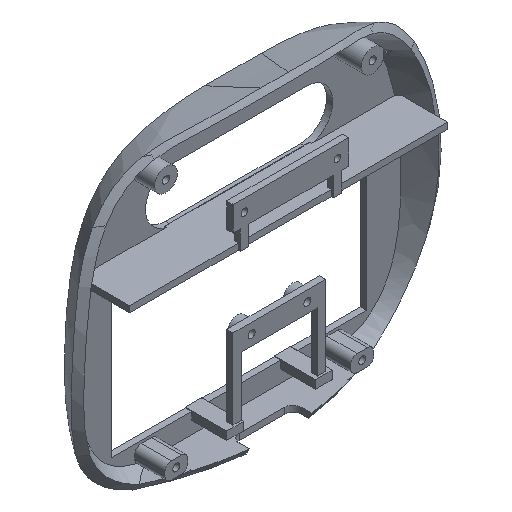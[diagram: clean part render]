
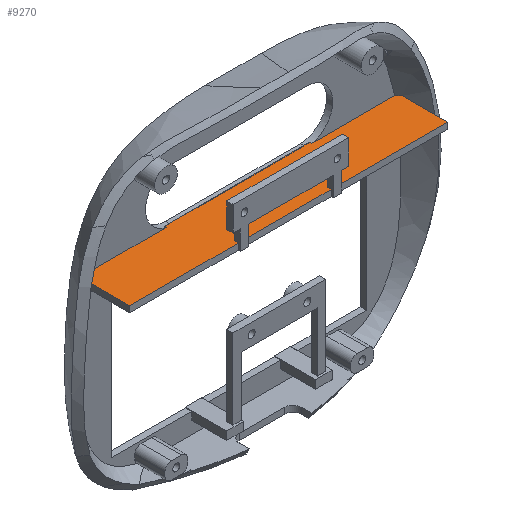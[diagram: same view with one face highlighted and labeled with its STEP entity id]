
A CAD part, isometric view. The second image highlights one B-rep face of the part: STEP entity #9270.
In plain terms, the highlighted planar face has unit normal (0, 0, 1).
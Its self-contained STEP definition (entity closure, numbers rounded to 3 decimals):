
#5504 = VERTEX_POINT('',#5505);
#5505 = CARTESIAN_POINT('',(77.,9.062,96.));
#5513 = EDGE_CURVE('',#5514,#5504,#5516,.T.);
#5514 = VERTEX_POINT('',#5515);
#5515 = CARTESIAN_POINT('',(75.351,11.025,96.));
#5516 = B_SPLINE_CURVE_WITH_KNOTS('',4,(#5517,#5518,#5519,#5520,#5521),
  .UNSPECIFIED.,.F.,.F.,(5,5),(0.,1.),.PIECEWISE_BEZIER_KNOTS.);
#5517 = CARTESIAN_POINT('',(74.461,12.025,96.));
#5518 = CARTESIAN_POINT('',(75.117,11.302,
    96.));
#5519 = CARTESIAN_POINT('',(75.759,10.567,
    96.));
#5520 = CARTESIAN_POINT('',(76.387,9.82,
    96.));
#5521 = CARTESIAN_POINT('',(77.,9.062,96.));
#6707 = VERTEX_POINT('',#6708);
#6708 = CARTESIAN_POINT('',(-75.351,11.025,96.));
#6888 = EDGE_CURVE('',#6889,#6707,#6891,.T.);
#6889 = VERTEX_POINT('',#6890);
#6890 = CARTESIAN_POINT('',(-77.,9.062,96.));
#6891 = B_SPLINE_CURVE_WITH_KNOTS('',4,(#6892,#6893,#6894,#6895,#6896),
  .UNSPECIFIED.,.F.,.F.,(5,5),(0.,1.),.PIECEWISE_BEZIER_KNOTS.);
#6892 = CARTESIAN_POINT('',(-77.,9.062,96.));
#6893 = CARTESIAN_POINT('',(-76.387,9.82,
    96.));
#6894 = CARTESIAN_POINT('',(-75.759,10.567,
    96.));
#6895 = CARTESIAN_POINT('',(-75.117,11.302,
    96.));
#6896 = CARTESIAN_POINT('',(-74.461,12.025,96.));
#9089 = EDGE_CURVE('',#6707,#9090,#9092,.T.);
#9090 = VERTEX_POINT('',#9091);
#9091 = CARTESIAN_POINT('',(-35.255,11.025,96.));
#9092 = LINE('',#9093,#9094);
#9093 = CARTESIAN_POINT('',(-163.5,11.025,96.));
#9094 = VECTOR('',#9095,1.);
#9095 = DIRECTION('',(1.,0.,0.));
#9115 = VERTEX_POINT('',#9116);
#9116 = CARTESIAN_POINT('',(35.255,11.025,96.));
#9123 = EDGE_CURVE('',#9115,#5514,#9124,.T.);
#9124 = LINE('',#9125,#9126);
#9125 = CARTESIAN_POINT('',(-163.5,11.025,96.));
#9126 = VECTOR('',#9127,1.);
#9127 = DIRECTION('',(1.,0.,0.));
#9168 = EDGE_CURVE('',#9090,#9169,#9171,.T.);
#9169 = VERTEX_POINT('',#9170);
#9170 = CARTESIAN_POINT('',(-35.255,12.025,96.));
#9171 = LINE('',#9172,#9173);
#9172 = CARTESIAN_POINT('',(-35.255,-2.975,96.));
#9173 = VECTOR('',#9174,1.);
#9174 = DIRECTION('',(0.,1.,0.));
#9221 = EDGE_CURVE('',#9115,#9222,#9224,.T.);
#9222 = VERTEX_POINT('',#9223);
#9223 = CARTESIAN_POINT('',(35.255,12.025,96.));
#9224 = LINE('',#9225,#9226);
#9225 = CARTESIAN_POINT('',(35.255,-2.975,96.));
#9226 = VECTOR('',#9227,1.);
#9227 = DIRECTION('',(0.,1.,0.));
#9270 = ADVANCED_FACE('',(#9271),#9371,.T.);
#9271 = FACE_BOUND('',#9272,.T.);
#9272 = EDGE_LOOP('',(#9273,#9281,#9289,#9297,#9305,#9313,#9321,#9329,
    #9337,#9345,#9353,#9359,#9360,#9361,#9362,#9368,#9369,#9370));
#9273 = ORIENTED_EDGE('',*,*,#9274,.F.);
#9274 = EDGE_CURVE('',#9275,#6889,#9277,.T.);
#9275 = VERTEX_POINT('',#9276);
#9276 = CARTESIAN_POINT('',(-77.,-12.975,96.));
#9277 = LINE('',#9278,#9279);
#9278 = CARTESIAN_POINT('',(-77.,-12.975,96.));
#9279 = VECTOR('',#9280,1.);
#9280 = DIRECTION('',(0.,1.,0.));
#9281 = ORIENTED_EDGE('',*,*,#9282,.T.);
#9282 = EDGE_CURVE('',#9275,#9283,#9285,.T.);
#9283 = VERTEX_POINT('',#9284);
#9284 = CARTESIAN_POINT('',(-24.5,-12.975,96.));
#9285 = LINE('',#9286,#9287);
#9286 = CARTESIAN_POINT('',(-77.,-12.975,96.));
#9287 = VECTOR('',#9288,1.);
#9288 = DIRECTION('',(1.,0.,0.));
#9289 = ORIENTED_EDGE('',*,*,#9290,.T.);
#9290 = EDGE_CURVE('',#9283,#9291,#9293,.T.);
#9291 = VERTEX_POINT('',#9292);
#9292 = CARTESIAN_POINT('',(-24.5,-11.025,96.));
#9293 = LINE('',#9294,#9295);
#9294 = CARTESIAN_POINT('',(-24.5,-13.5,96.));
#9295 = VECTOR('',#9296,1.);
#9296 = DIRECTION('',(0.,1.,0.));
#9297 = ORIENTED_EDGE('',*,*,#9298,.F.);
#9298 = EDGE_CURVE('',#9299,#9291,#9301,.T.);
#9299 = VERTEX_POINT('',#9300);
#9300 = CARTESIAN_POINT('',(-20.5,-11.025,96.));
#9301 = LINE('',#9302,#9303);
#9302 = CARTESIAN_POINT('',(-50.75,-11.025,96.));
#9303 = VECTOR('',#9304,1.);
#9304 = DIRECTION('',(-1.,0.,0.));
#9305 = ORIENTED_EDGE('',*,*,#9306,.F.);
#9306 = EDGE_CURVE('',#9307,#9299,#9309,.T.);
#9307 = VERTEX_POINT('',#9308);
#9308 = CARTESIAN_POINT('',(-20.5,-12.975,96.));
#9309 = LINE('',#9310,#9311);
#9310 = CARTESIAN_POINT('',(-20.5,-13.5,96.));
#9311 = VECTOR('',#9312,1.);
#9312 = DIRECTION('',(0.,1.,0.));
#9313 = ORIENTED_EDGE('',*,*,#9314,.T.);
#9314 = EDGE_CURVE('',#9307,#9315,#9317,.T.);
#9315 = VERTEX_POINT('',#9316);
#9316 = CARTESIAN_POINT('',(20.5,-12.975,96.));
#9317 = LINE('',#9318,#9319);
#9318 = CARTESIAN_POINT('',(-77.,-12.975,96.));
#9319 = VECTOR('',#9320,1.);
#9320 = DIRECTION('',(1.,0.,0.));
#9321 = ORIENTED_EDGE('',*,*,#9322,.T.);
#9322 = EDGE_CURVE('',#9315,#9323,#9325,.T.);
#9323 = VERTEX_POINT('',#9324);
#9324 = CARTESIAN_POINT('',(20.5,-11.025,96.));
#9325 = LINE('',#9326,#9327);
#9326 = CARTESIAN_POINT('',(20.5,-13.5,96.));
#9327 = VECTOR('',#9328,1.);
#9328 = DIRECTION('',(0.,1.,0.));
#9329 = ORIENTED_EDGE('',*,*,#9330,.F.);
#9330 = EDGE_CURVE('',#9331,#9323,#9333,.T.);
#9331 = VERTEX_POINT('',#9332);
#9332 = CARTESIAN_POINT('',(24.5,-11.025,96.));
#9333 = LINE('',#9334,#9335);
#9334 = CARTESIAN_POINT('',(-28.25,-11.025,96.));
#9335 = VECTOR('',#9336,1.);
#9336 = DIRECTION('',(-1.,0.,0.));
#9337 = ORIENTED_EDGE('',*,*,#9338,.F.);
#9338 = EDGE_CURVE('',#9339,#9331,#9341,.T.);
#9339 = VERTEX_POINT('',#9340);
#9340 = CARTESIAN_POINT('',(24.5,-12.975,96.));
#9341 = LINE('',#9342,#9343);
#9342 = CARTESIAN_POINT('',(24.5,-13.5,96.));
#9343 = VECTOR('',#9344,1.);
#9344 = DIRECTION('',(0.,1.,0.));
#9345 = ORIENTED_EDGE('',*,*,#9346,.T.);
#9346 = EDGE_CURVE('',#9339,#9347,#9349,.T.);
#9347 = VERTEX_POINT('',#9348);
#9348 = CARTESIAN_POINT('',(77.,-12.975,96.));
#9349 = LINE('',#9350,#9351);
#9350 = CARTESIAN_POINT('',(-77.,-12.975,96.));
#9351 = VECTOR('',#9352,1.);
#9352 = DIRECTION('',(1.,0.,0.));
#9353 = ORIENTED_EDGE('',*,*,#9354,.T.);
#9354 = EDGE_CURVE('',#9347,#5504,#9355,.T.);
#9355 = LINE('',#9356,#9357);
#9356 = CARTESIAN_POINT('',(77.,-12.975,96.));
#9357 = VECTOR('',#9358,1.);
#9358 = DIRECTION('',(0.,1.,0.));
#9359 = ORIENTED_EDGE('',*,*,#5513,.F.);
#9360 = ORIENTED_EDGE('',*,*,#9123,.F.);
#9361 = ORIENTED_EDGE('',*,*,#9221,.T.);
#9362 = ORIENTED_EDGE('',*,*,#9363,.F.);
#9363 = EDGE_CURVE('',#9169,#9222,#9364,.T.);
#9364 = LINE('',#9365,#9366);
#9365 = CARTESIAN_POINT('',(-77.,12.025,96.));
#9366 = VECTOR('',#9367,1.);
#9367 = DIRECTION('',(1.,0.,0.));
#9368 = ORIENTED_EDGE('',*,*,#9168,.F.);
#9369 = ORIENTED_EDGE('',*,*,#9089,.F.);
#9370 = ORIENTED_EDGE('',*,*,#6888,.F.);
#9371 = PLANE('',#9372);
#9372 = AXIS2_PLACEMENT_3D('',#9373,#9374,#9375);
#9373 = CARTESIAN_POINT('',(-77.,-12.975,96.));
#9374 = DIRECTION('',(0.,0.,1.));
#9375 = DIRECTION('',(1.,0.,0.));
